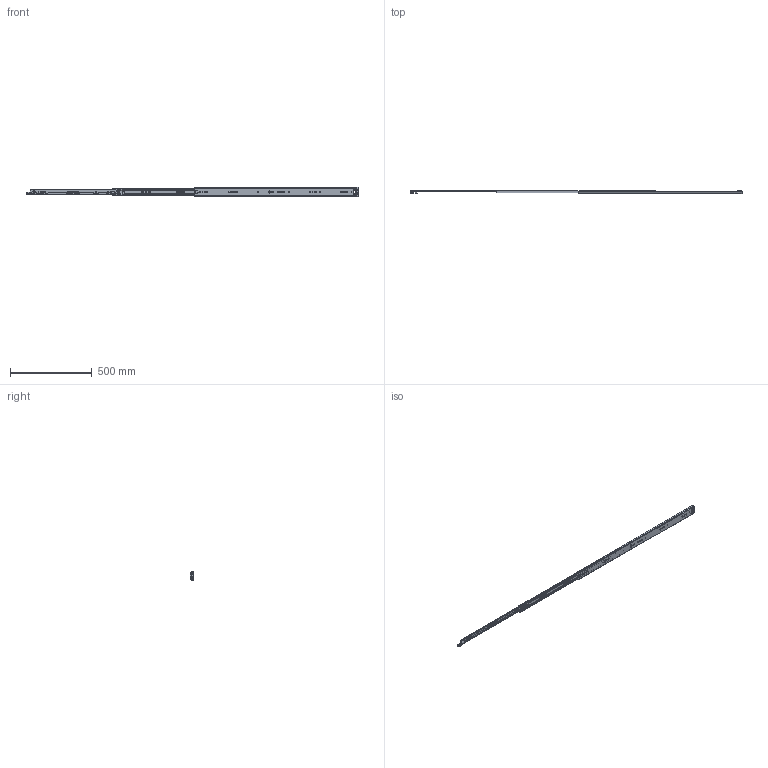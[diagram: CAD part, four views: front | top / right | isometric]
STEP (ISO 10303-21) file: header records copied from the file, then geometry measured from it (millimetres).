
FILE_DESCRIPTION((''),'2;1');
FILE_NAME('KP-57-01ZUZHUANGTU-40_ASM','2022-08-17T',('jishu015'),(''),'PRO/ENGINEER BY PARAMETRIC TECHNOLOGY CORPORATION, 2010280','PRO/ENGINEER BY PARAMETRIC TECHNOLOGY CORPORATION, 2010280','');
FILE_SCHEMA(('CONFIG_CONTROL_DESIGN'));
Products named in the file (22): KP-57-01WEIKE-18______; 1057WEIJIAO______; WAIKE_____ASM; KP-57-01ZHONGGUI-18______; ZHONGGUIPEIJIAN-11____; ZHONGGUISUOKOU-11____; KP-57-01ZHONGGUI-18_______ASM; 1057XIAOZHUJIA______; 1057-5-6GANZHU______; 1057XIAOZHUJIA-14GE_______ASM; KP-57-01NEIGUI-18______; PJ-57-08____; DIAOPIAN-11____; 50XINSUOKOU-1____; TANHUANG____; 1053-3SBANJI122__; JIAO11__; KP-57-01NEIGUI-18_______ASM; 1053ZHUTIAO-175__________; 53-5-6GANZHU__________; 1053ZHUTIAO-175MM_____ASM; KP-57-01ZUZHUANGTU-40_ASM
Assembly tree (110 placements, depth 3):
  KP-57-01ZUZHUANGTU-40_ASM
    WAIKE_____ASM
      KP-57-01WEIKE-18______
      1057WEIJIAO______
    KP-57-01ZHONGGUI-18_______ASM
      KP-57-01ZHONGGUI-18______
      ZHONGGUIPEIJIAN-11____
      ZHONGGUISUOKOU-11____
    1057XIAOZHUJIA-14GE_______ASM
      1057XIAOZHUJIA______
      1057-5-6GANZHU______  x72
    KP-57-01NEIGUI-18_______ASM
      KP-57-01NEIGUI-18______
      PJ-57-08____
      DIAOPIAN-11____
      50XINSUOKOU-1____
      TANHUANG____
      1053-3SBANJI122__
      JIAO11__
    1053ZHUTIAO-175MM_____ASM  x2
      1053ZHUTIAO-175__________
      53-5-6GANZHU__________
Bounding box: 2026.92 x 19 x 57.67 mm (x, y, z)
Volume: 439571.3 mm3; surface area: 480048.1 mm2
Topology: 126 solids, 126 shells, 2978 faces, 8612 edges, 5359 vertices
Faces by surface type: cylinder 1306, plane 1179, sphere 227, bspline 134, cone 84, torus 25, extrusion 23
Entity records: 95347 total; most frequent: CARTESIAN_POINT 23431, ORIENTED_EDGE 15220, DIRECTION 14837, EDGE_CURVE 7610, AXIS2_PLACEMENT_3D 5137, VERTEX_POINT 4915, VECTOR 4563, LINE 4540
